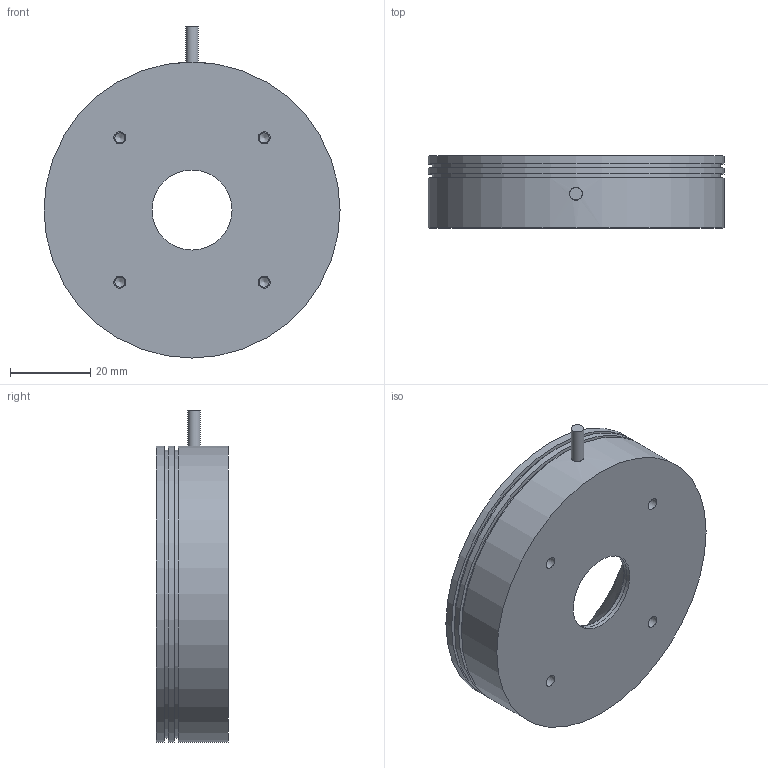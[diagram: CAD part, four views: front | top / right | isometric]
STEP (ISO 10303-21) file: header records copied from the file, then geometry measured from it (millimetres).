
FILE_DESCRIPTION(/* description */ (''),/* implementation_level */ '2;1');
FILE_NAME(/* name */ 'C:\#Vault-WorkDir\Konstruktions-Dokumente\Projekte\Zubehör allgemein\Falcon Beleuchtungen\153-00728_LR 70 xD-24-KFL5.stp',/* time_stamp */ '2018-07-26T09:44:23+02:00',/* author */ ('SensoPart'),/* organization */ ('SensoPart'),/* preprocessor_version */ 'ST-DEVELOPER v17',/* originating_system */ 'Autodesk Inventor 2018',/* authorisation */ '');
FILE_SCHEMA (('AUTOMOTIVE_DESIGN { 1 0 10303 214 3 1 1 }'));
Length unit declared in the file: millimetre
Products named in the file (1): GH-ENG-0026508_Shrinkwrap_1
Bounding box: 74 x 18 x 83 mm (x, y, z)
Volume: 56055 mm3; surface area: 24824.2 mm2
Topology: 3 solids, 3 shells, 49 faces, 124 edges, 92 vertices
Faces by surface type: cylinder 22, plane 19, cone 8
Full cylindrical faces by diameter (mm): 2.5 x4, 3 x4, 3.1 x1, 3.2 x1, 20 x2, 57.6 x2, 69 x2, 72 x2, 74 x3
Entity records: 1682 total; most frequent: CARTESIAN_POINT 313, DIRECTION 296, ORIENTED_EDGE 238, AXIS2_PLACEMENT_3D 132, EDGE_CURVE 119, VERTEX_POINT 92, CIRCLE 82, EDGE_LOOP 69
